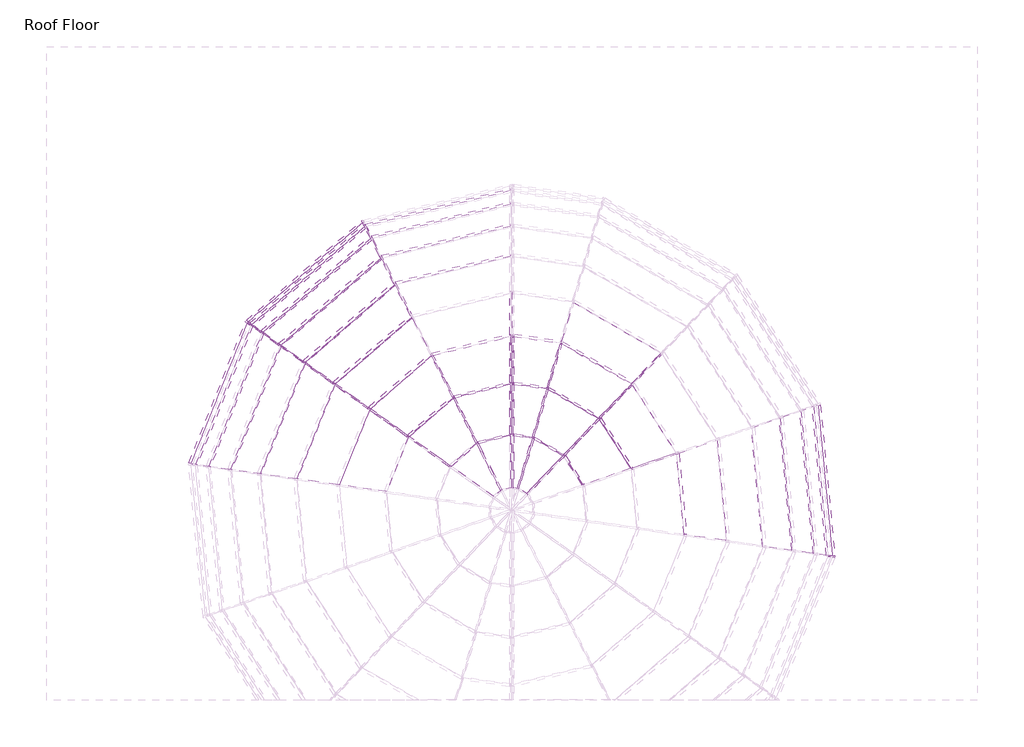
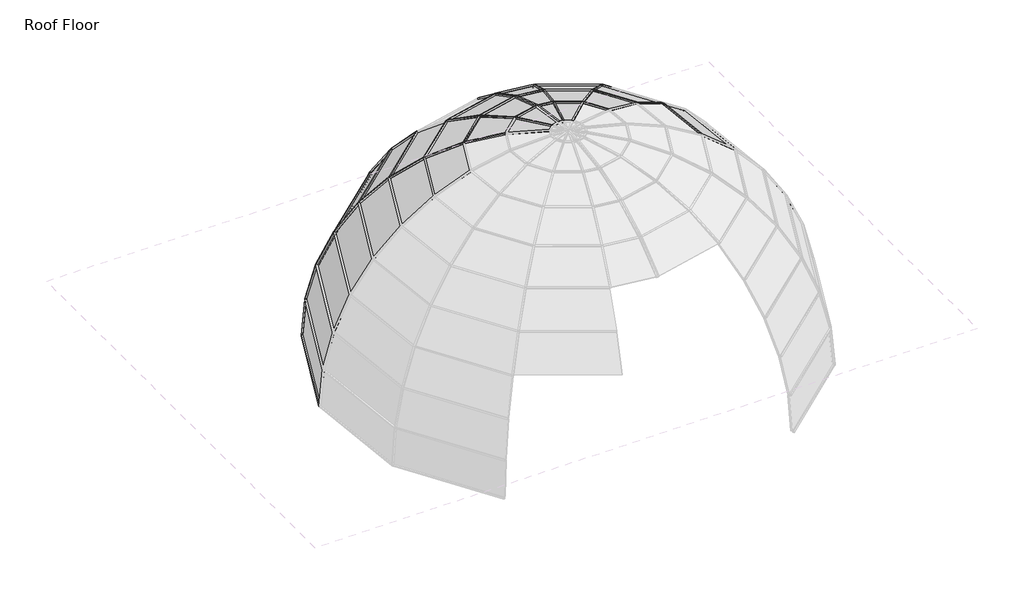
# One storey, part 4 of 5: 57 members, 33 plates.
"""IFC4 building model written with IfcOpenShell, lengths in millimetres."""

from ifc_helpers import new_model, si_unit, origin, place, context, project, spatial, transform, mapped, element, save
from components import member_e5884c93, member_68b33a8a, member_1644e863, member_ecfbb555, member_824fc51d, member_3542fcca, member_54749c12, member_24c90e2e, member_355504b0, member_dee8aa16, member_df6d12cb, member_6952dcc5, member_4046197d, member_16c772f1, member_ac46e98e, member_b6a9e346, member_16816f3b, member_d3833f24, member_95e271e4, member_7f7bd10d, member_27f65fe7, member_b6c57be0, member_ac816b31, member_27e61d6b, member_8ccf5568, member_a4aff84e, member_5ef621be, member_85a1b8f2, system_panel_glazed_e103372f, system_panel_glazed_c16507b5, system_panel_glazed_afa622ac, system_panel_glazed_079f8796, system_panel_glazed_c9cd471f, system_panel_glazed_44273b71, system_panel_glazed_99547904, system_panel_glazed_224b1453, system_panel_glazed_86a28251, system_panel_glazed_afbe5211, system_panel_glazed_17e44092, system_panel_glazed_03693a4c, system_panel_glazed_4e9ddf93, system_panel_glazed_1d538f7b, system_panel_glazed_1c764c03

model = new_model("IFC4")

# Units and contexts
model_context = context("Model", 3, world=origin())
ifc_project = project(units=[si_unit("LENGTHUNIT", "METRE", prefix="MILLI")], contexts=[model_context])

# Site, building, storey
site = spatial("IfcSite", under=ifc_project)
building = spatial("IfcBuilding", under=site)
storey = spatial("IfcBuildingStorey", under=building, Name="Roof Floor", Elevation=15240.0)

# Members
placement = place(None, origin())
member_shape = member_e5884c93(model_context)
element("IfcMember", 1, ObjectType="Rectangular Mullion : 1\" Square", at=placement, inside=storey, context=model_context, shape_type="MappedRepresentation", body=[
    mapped(member_shape, transform((-5386.0704997, 1405.930168, 21117.9670279), x_axis=(0.4123904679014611, -0.47609224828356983, 0.7767047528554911), y_axis=(-0.5085307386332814, 0.5870832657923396, 0.6298648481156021), z_axis=(-0.75586413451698, -0.654728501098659, 0.0))),
])
member_2_shape = member_68b33a8a(model_context)
element("IfcMember", 2, ObjectType="Rectangular Mullion : 1\" Square", at=placement, inside=storey, context=model_context, shape_type="MappedRepresentation", body=[
    mapped(member_2_shape, transform((-4103.8308858, 2508.907042, 21117.9670279), x_axis=(0.14846056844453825, -0.6121186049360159, 0.7767047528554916), y_axis=(-0.18307106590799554, 0.7548213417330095, 0.6298648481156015), z_axis=(-0.9718253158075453, -0.23570226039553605, 0.0))),
])
member_3_shape = member_1644e863(model_context)
element("IfcMember", 3, ObjectType="Rectangular Mullion : 1\" Square", at=placement, inside=storey, context=model_context, shape_type="MappedRepresentation", body=[
    mapped(member_3_shape, transform((-5728.2554226, 1649.7192684, 20482.2624164), x_axis=(0.32116850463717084, -0.37077926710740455, 0.8714204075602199), y_axis=(-0.5705437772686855, 0.6586754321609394, 0.4905369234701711), z_axis=(-0.7558641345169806, -0.6547285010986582, 0.0))),
])
member_4_shape = member_ecfbb555(model_context)
element("IfcMember", 4, ObjectType="Rectangular Mullion : 1\" Square", at=placement, inside=storey, context=model_context, shape_type="MappedRepresentation", body=[
    mapped(member_4_shape, transform((-5979.6973099, 1828.8586383, 19785.6060711), x_axis=(0.2199875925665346, -0.25396898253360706, 0.9418626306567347), y_axis=(-0.6166643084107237, 0.711920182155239, 0.33599819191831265), z_axis=(-0.7558641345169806, -0.6547285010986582, 0.0))),
])
member_5_shape = member_824fc51d(model_context)
element("IfcMember", 5, ObjectType="Rectangular Mullion : 1\" Square", at=placement, inside=storey, context=model_context, shape_type="MappedRepresentation", body=[
    mapped(member_5_shape, transform((-4437.7459666, 3156.7974646, 19785.6060711), x_axis=(0.0791955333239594, -0.3265315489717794, 0.9418626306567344), y_axis=(-0.22199915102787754, 0.9153259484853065, 0.3359981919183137), z_axis=(-0.9718253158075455, -0.23570226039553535, 0.0))),
])
member_6_shape = member_3542fcca(model_context)
element("IfcMember", 6, ObjectType="Rectangular Mullion : 1\" Square", at=placement, inside=storey, context=model_context, shape_type="MappedRepresentation", body=[
    mapped(member_6_shape, transform((-6133.4116648, 1938.3721843, 19047.3495572), x_axis=(0.11180378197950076, -0.12907406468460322, 0.9853120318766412), y_axis=(-0.6451118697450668, 0.7447620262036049, 0.1707635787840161), z_axis=(-0.7558641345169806, -0.6547285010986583, 0.0))),
])
member_7_shape = member_54749c12(model_context)
element("IfcMember", 7, ObjectType="Rectangular Mullion : 1\" Square", at=placement, inside=storey, context=model_context, shape_type="MappedRepresentation", body=[
    mapped(member_7_shape, transform((-4296.309905, 2882.3711957, 20482.2624164), x_axis=(0.11562066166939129, -0.47671620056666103, 0.8714204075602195), y_axis=(-0.20539575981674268, 0.8468684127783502, 0.4905369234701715), z_axis=(-0.9718253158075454, -0.23570226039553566, 0.0))),
])
member_8_shape = member_24c90e2e(model_context)
element("IfcMember", 8, ObjectType="Rectangular Mullion : 1\" Square", at=placement, inside=storey, context=model_context, shape_type="MappedRepresentation", body=[
    mapped(member_8_shape, transform((-4524.2102912, 3324.5628967, 19047.3495572), x_axis=(0.04024936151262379, -0.16595236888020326, 0.9853120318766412), y_axis=(-0.23224027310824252, 0.957551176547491, 0.17076357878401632), z_axis=(-0.9718253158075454, -0.23570226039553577, 0.0))),
])
member_9_shape = member_355504b0(model_context)
element("IfcMember", 9, ObjectType="Rectangular Mullion : 1\" Square", at=placement, inside=storey, context=model_context, shape_type="MappedRepresentation", body=[
    mapped(member_9_shape, transform((-2445.9654175, 379.0161469, 22733.3596998), x_axis=(-0.13878677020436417, -0.9628912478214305, 0.2314706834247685), y_axis=(0.03302188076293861, 0.22910310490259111, 0.9728418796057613), z_axis=(-0.9897715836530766, 0.1426611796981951, 0.0))),
])
member_10_shape = member_dee8aa16(model_context)
element("IfcMember", 10, ObjectType="Rectangular Mullion : 1\" Square", at=placement, inside=storey, context=model_context, shape_type="MappedRepresentation", body=[
    mapped(member_10_shape, transform((-1726.3579262, 76.2970849, 22733.3596998), x_axis=(-0.8194718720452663, -0.5260350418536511, 0.22749282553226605), y_axis=(0.19144367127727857, 0.12289144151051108, 0.9737797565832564), z_axis=(-0.5401991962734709, 0.8415371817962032, 0.0))),
])
element("IfcMember", 11, ObjectType="Rectangular Mullion : 1\" Square", at=placement, inside=storey, context=model_context, shape_type="MappedRepresentation", body=[
    mapped(member_10_shape, transform((-2158.3270023, 332.7848877, 22733.3596998), x_axis=(-0.4874307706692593, -0.843005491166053, 0.2274928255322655), y_axis=(0.11387277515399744, 0.19694155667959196, 0.9737797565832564), z_axis=(-0.8657044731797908, 0.5005554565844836, 0.0))),
])
member_11_shape = member_df6d12cb(model_context)
element("IfcMember", 12, ObjectType="Rectangular Mullion : 1\" Square", at=placement, inside=storey, context=model_context, shape_type="MappedRepresentation", body=[
    mapped(member_11_shape, transform((-2948.3253368, 266.8969575, 22733.3596998), x_axis=(0.2295220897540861, -0.9463438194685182, 0.22749282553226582), y_axis=(-0.053620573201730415, 0.22108328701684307, 0.9737797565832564), z_axis=(-0.9718253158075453, -0.23570226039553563, 0.0))),
])
member_12_shape = member_6952dcc5(model_context)
element("IfcMember", 13, ObjectType="Rectangular Mullion : 1\" Square", at=placement, inside=storey, context=model_context, shape_type="MappedRepresentation", body=[
    mapped(member_12_shape, transform((-6199.4516694, 1955.1139154, 18288.0), x_axis=(-0.07519001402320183, 0.030126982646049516, -0.9967140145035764), y_axis=(-0.9252092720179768, 0.3707109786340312, 0.0810010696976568), z_axis=(0.37193314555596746, 0.9282595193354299, 0.0))),
])
element("IfcMember", 14, ObjectType="Rectangular Mullion : 1\" Square", at=placement, inside=storey, context=model_context, shape_type="MappedRepresentation", body=[
    mapped(member_12_shape, transform((-4575.242748, 3369.6988705, 18288.0), x_axis=(-0.053033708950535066, 0.06122580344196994, -0.9967140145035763), y_axis=(-0.6525770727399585, 0.7533803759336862, 0.0810010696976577), z_axis=(0.7558641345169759, 0.6547285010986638, 0.0))),
])
element("IfcMember", 15, ObjectType="Rectangular Mullion : 1\" Square", at=placement, inside=storey, context=model_context, shape_type="MappedRepresentation", body=[
    mapped(member_12_shape, transform((2052.9280142, -1325.590006, 18288.0), x_axis=(0.08063742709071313, 0.0076667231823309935, -0.9967140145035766), y_axis=(0.9922394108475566, 0.09433863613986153, 0.08100106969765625), z_axis=(0.09464965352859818, -0.995510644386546, 0.0))),
])
member_13_shape = member_4046197d(model_context)
element("IfcMember", 16, ObjectType="Rectangular Mullion : 1\" Square", at=placement, inside=storey, context=model_context, shape_type="MappedRepresentation", body=[
    mapped(member_13_shape, transform((-2445.9654175, 1102.490377, 22494.1337848), x_axis=(-0.13145065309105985, -0.9119938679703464, 0.3885716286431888), y_axis=(0.05543408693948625, 0.38459715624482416, 0.9214185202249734), z_axis=(-0.9897715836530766, 0.142661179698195, 0.0))),
])
member_14_shape = member_16c772f1(model_context)
element("IfcMember", 17, ObjectType="Rectangular Mullion : 1\" Square", at=placement, inside=storey, context=model_context, shape_type="MappedRepresentation", body=[
    mapped(member_14_shape, transform((-3921.0652112, 362.1894964, 22494.1337848), x_axis=(0.6049222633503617, -0.6983643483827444, 0.38256540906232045), y_axis=(-0.25047647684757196, 0.2891674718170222, 0.9239284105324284), z_axis=(-0.7558641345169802, -0.654728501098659, 0.0))),
])
element("IfcMember", 18, ObjectType="Rectangular Mullion : 1\" Square", at=placement, inside=storey, context=model_context, shape_type="MappedRepresentation", body=[
    mapped(member_14_shape, transform((-1226.7982715, 599.6087636, 22494.1337848), x_axis=(-0.7775201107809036, -0.4991053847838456, 0.3825654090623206), y_axis=(0.32194301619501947, 0.20666152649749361, 0.9239284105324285), z_axis=(-0.5401991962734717, 0.8415371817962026, 0.0))),
])
element("IfcMember", 19, ObjectType="Rectangular Mullion : 1\" Square", at=placement, inside=storey, context=model_context, shape_type="MappedRepresentation", body=[
    mapped(member_14_shape, transform((-1954.0150122, 1026.8105158, 22494.1337848), x_axis=(-0.46247740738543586, -0.7998489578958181, 0.38256540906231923), y_axis=(0.19149520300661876, 0.33118858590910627, 0.9239284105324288), z_axis=(-0.865704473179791, 0.5005554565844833, 0.0))),
])
member_15_shape = member_ac46e98e(model_context)
element("IfcMember", 20, ObjectType="Rectangular Mullion : 1\" Square", at=placement, inside=storey, context=model_context, shape_type="MappedRepresentation", body=[
    mapped(member_15_shape, transform((-3279.7654111, 909.9851621, 22494.1337848), x_axis=(0.21777201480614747, -0.8978970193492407, 0.3825654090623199), y_axis=(-0.09017153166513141, 0.3717867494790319, 0.9239284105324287), z_axis=(-0.9718253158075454, -0.23570226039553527, 0.0))),
])
member_16_shape = member_b6a9e346(model_context)
element("IfcMember", 21, ObjectType="Rectangular Mullion : 1\" Square", at=placement, inside=storey, context=model_context, shape_type="MappedRepresentation", body=[
    mapped(member_16_shape, transform((-2445.9654175, 1776.1840502, 22138.0708204), x_axis=(-0.12049183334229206, -0.8359624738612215, 0.5353956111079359), y_axis=(0.07638016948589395, 0.5299193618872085, 0.8446014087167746), z_axis=(-0.9897715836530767, 0.14266117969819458, 0.0))),
])
member_17_shape = member_16816f3b(model_context)
element("IfcMember", 22, ObjectType="Rectangular Mullion : 1\" Square", at=placement, inside=storey, context=model_context, shape_type="MappedRepresentation", body=[
    mapped(member_17_shape, transform((-4469.7487023, 753.098171, 22138.0708204), x_axis=(0.5558548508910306, -0.6417175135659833, 0.528416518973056), y_axis=(-0.3459693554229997, 0.39941109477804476, 0.8489852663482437), z_axis=(-0.7558641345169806, -0.6547285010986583, 0.0))),
])
element("IfcMember", 23, ObjectType="Rectangular Mullion : 1\" Square", at=placement, inside=storey, context=model_context, shape_type="MappedRepresentation", body=[
    mapped(member_17_shape, transform((-139.3504694, 106.7658383, 22138.0708204), x_axis=(-0.8451738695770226, -0.08035616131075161, 0.5284165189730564), y_axis=(0.5260442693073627, 0.0500144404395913, 0.8489852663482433), z_axis=(-0.09464965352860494, 0.9955106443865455, 0.0))),
])
element("IfcMember", 24, ObjectType="Rectangular Mullion : 1\" Square", at=placement, inside=storey, context=model_context, shape_type="MappedRepresentation", body=[
    mapped(member_17_shape, transform((-1763.7612487, 1673.0818758, 22138.0708204), x_axis=(-0.4249642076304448, -0.7349703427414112, 0.5284165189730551), y_axis=(0.264501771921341, 0.45745254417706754, 0.8489852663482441), z_axis=(-0.8657044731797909, 0.5005554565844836, 0.0))),
])
member_18_shape = member_d3833f24(model_context)
element("IfcMember", 25, ObjectType="Rectangular Mullion : 1\" Square", at=placement, inside=storey, context=model_context, shape_type="MappedRepresentation", body=[
    mapped(member_18_shape, transform((-3588.3998748, 1508.8239827, 22138.0708204), x_axis=(0.2001077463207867, -0.8250653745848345, 0.5284165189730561), y_axis=(-0.1245489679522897, 0.5135285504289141, 0.8489852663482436), z_axis=(-0.9718253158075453, -0.23570226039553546, 0.0))),
])
member_19_shape = member_95e271e4(model_context)
element("IfcMember", 26, ObjectType="Rectangular Mullion : 1\" Square", at=placement, inside=storey, context=model_context, shape_type="MappedRepresentation", body=[
    mapped(member_19_shape, transform((-4962.6476779, 1104.2632567, 21675.0614442), x_axis=(0.49123616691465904, -0.5671172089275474, 0.6611089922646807), y_axis=(-0.4328468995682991, 0.4997085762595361, 0.7502898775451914), z_axis=(-0.7558641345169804, -0.6547285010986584, 0.0))),
])
member_20_shape = member_7f7bd10d(model_context)
element("IfcMember", 27, ObjectType="Rectangular Mullion : 1\" Square", at=placement, inside=storey, context=model_context, shape_type="MappedRepresentation", body=[
    mapped(member_20_shape, transform((-3600.7420563, 1505.830564, 22138.0708204), x_axis=(-0.8888888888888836, -0.4581228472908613, 0.0), y_axis=(-0.21406900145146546, 0.41535487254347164, 0.8841124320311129), z_axis=(-0.40503210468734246, 0.7858777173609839, -0.4672742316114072))),
])
element("IfcMember", 28, ObjectType="Rectangular Mullion : 1\" Square", at=placement, inside=storey, context=model_context, shape_type="MappedRepresentation", body=[
    mapped(member_20_shape, transform((-3292.1075926, 906.9917434, 22494.1337848), x_axis=(-0.8888888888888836, -0.4581228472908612, 0.0), y_axis=(-0.14382527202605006, 0.2790620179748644, 0.9494412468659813), z_axis=(-0.43496072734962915, 0.8439477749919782, -0.31394477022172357))),
])
element("IfcMember", 29, ObjectType="Rectangular Mullion : 1\" Square", at=placement, inside=storey, context=model_context, shape_type="MappedRepresentation", body=[
    mapped(member_20_shape, transform((-6143.0111393, 1930.0571323, 19047.3495572), x_axis=(-0.5802469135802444, -0.8144406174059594, 0.0), y_axis=(-0.789063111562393, 0.5621667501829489, 0.247685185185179), z_axis=(-0.20172487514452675, 0.14371856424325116, -0.9688405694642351))),
])
element("IfcMember", 30, ObjectType="Rectangular Mullion : 1\" Square", at=placement, inside=storey, context=model_context, shape_type="MappedRepresentation", body=[
    mapped(member_20_shape, transform((-5989.2967844, 1820.5435863, 19785.6060711), x_axis=(-0.5802469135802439, -0.8144406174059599, 0.0), y_axis=(-0.7446000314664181, 0.5304890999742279, 0.4051568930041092), z_axis=(-0.32997623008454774, 0.2350910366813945, -0.9142471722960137))),
])
element("IfcMember", 31, ObjectType="Rectangular Mullion : 1\" Square", at=placement, inside=storey, context=model_context, shape_type="MappedRepresentation", body=[
    mapped(member_20_shape, transform((-5737.8548971, 1641.4042164, 20482.2624164), x_axis=(-0.580246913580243, -0.8144406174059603, 0.0), y_axis=(-0.6794536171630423, 0.48407564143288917, 0.5513742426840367), z_axis=(-0.4490615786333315, 0.3199332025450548, -0.8342580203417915))),
])
element("IfcMember", 32, ObjectType="Rectangular Mullion : 1\" Square", at=placement, inside=storey, context=model_context, shape_type="MappedRepresentation", body=[
    mapped(member_20_shape, transform((-5395.6699742, 1397.6151161, 21117.9670279), x_axis=(-0.5802469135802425, -0.8144406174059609, 0.0), y_axis=(-0.5954334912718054, 0.42421563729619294, 0.6822756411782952), z_axis=(-0.5556729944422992, 0.3958883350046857, -0.7310950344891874))),
])
element("IfcMember", 33, ObjectType="Rectangular Mullion : 1\" Square", at=placement, inside=storey, context=model_context, shape_type="MappedRepresentation", body=[
    mapped(member_20_shape, transform((-4972.2471524, 1095.9482048, 21675.0614442), x_axis=(-0.5802469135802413, -0.8144406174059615, 0.0), y_axis=(-0.49487354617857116, 0.35257186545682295, 0.7942249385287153), z_axis=(-0.6468490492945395, 0.4608465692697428, -0.6076238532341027))),
])
element("IfcMember", 34, ObjectType="Rectangular Mullion : 1\" Square", at=placement, inside=storey, context=model_context, shape_type="MappedRepresentation", body=[
    mapped(member_20_shape, transform((-4479.3481768, 744.783119, 22138.0708204), x_axis=(-0.5802469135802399, -0.8144406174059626, 0.0), y_axis=(-0.3805671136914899, 0.27113443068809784, 0.8841124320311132), z_axis=(-0.7200570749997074, 0.5130035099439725, -0.4672742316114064))),
])
element("IfcMember", 35, ObjectType="Rectangular Mullion : 1\" Square", at=placement, inside=storey, context=model_context, shape_type="MappedRepresentation", body=[
    mapped(member_20_shape, transform((-4536.5524727, 3321.569478, 19047.3495572), x_axis=(-0.888888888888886, -0.45812284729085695, 0.0), y_axis=(-0.4438480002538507, 0.8611916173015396, 0.2476851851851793), z_axis=(-0.11347024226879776, 0.2201646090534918, -0.9688405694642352))),
])
element("IfcMember", 36, ObjectType="Rectangular Mullion : 1\" Square", at=placement, inside=storey, context=model_context, shape_type="MappedRepresentation", body=[
    mapped(member_20_shape, transform((-4450.0881481, 3153.8040459, 19785.6060711), x_axis=(-0.8888888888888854, -0.4581228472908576, 0.0), y_axis=(-0.4188375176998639, 0.8126641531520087, 0.40515689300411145), z_axis=(-0.18561162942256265, 0.36013946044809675, -0.9142471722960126))),
])
element("IfcMember", 37, ObjectType="Rectangular Mullion : 1\" Square", at=placement, inside=storey, context=model_context, shape_type="MappedRepresentation", body=[
    mapped(member_20_shape, transform((-4308.6520865, 2879.377777, 20482.2624164), x_axis=(-0.8888888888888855, -0.4581228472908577, 0.0), y_axis=(-0.3821926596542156, 0.7415626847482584, 0.551374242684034), z_axis=(-0.25259713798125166, 0.49011043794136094, -0.8342580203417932))),
])
element("IfcMember", 38, ObjectType="Rectangular Mullion : 1\" Square", at=placement, inside=storey, context=model_context, shape_type="MappedRepresentation", body=[
    mapped(member_20_shape, transform((-4116.1730673, 2505.9136233, 21117.9670279), x_axis=(-0.888888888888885, -0.45812284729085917, 0.0), y_axis=(-0.3349313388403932, 0.6498622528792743, 0.6822756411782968), z_axis=(-0.31256605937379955, 0.6064672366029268, -0.7310950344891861))),
])
element("IfcMember", 39, ObjectType="Rectangular Mullion : 1\" Square", at=placement, inside=storey, context=model_context, shape_type="MappedRepresentation", body=[
    mapped(member_20_shape, transform((-3930.6646857, 353.8744444, 22494.1337848), x_axis=(-0.5802469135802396, -0.8144406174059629, 0.0), y_axis=(-0.25568937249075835, 0.182165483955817, 0.9494412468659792), z_axis=(-0.7732635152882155, 0.5509103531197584, -0.3139447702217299))),
])
element("IfcMember", 40, ObjectType="Rectangular Mullion : 1\" Square", at=placement, inside=storey, context=model_context, shape_type="MappedRepresentation", body=[
    mapped(member_20_shape, transform((-140.55252, 119.4088235, 22138.0708204), x_axis=(-0.3266270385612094, 0.9451533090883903, 0.0), y_axis=(0.44164578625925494, 0.15262439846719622, 0.8841124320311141), z_axis=(0.8356217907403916, 0.2887750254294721, -0.4672742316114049))),
])
element("IfcMember", 41, ObjectType="Rectangular Mullion : 1\" Square", at=placement, inside=storey, context=model_context, shape_type="MappedRepresentation", body=[
    mapped(member_20_shape, transform((-350.5818969, 1535.3598953, 21675.0614442), x_axis=(-0.7233314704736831, 0.6905009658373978, 0.0), y_axis=(0.41956485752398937, 0.4395134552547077, 0.7942249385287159), z_axis=(0.5484130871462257, 0.5744878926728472, -0.607623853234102))),
])
element("IfcMember", 42, ObjectType="Rectangular Mullion : 1\" Square", at=placement, inside=storey, context=model_context, shape_type="MappedRepresentation", body=[
    mapped(member_20_shape, transform((-768.4726693, 1097.6001211, 22138.0708204), x_axis=(-0.7233314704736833, 0.6905009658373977, 0.0), y_axis=(0.3226533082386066, 0.33799415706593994, 0.884112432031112), z_axis=(0.6104804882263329, 0.639506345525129, -0.46727423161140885))),
])
element("IfcMember", 43, ObjectType="Rectangular Mullion : 1\" Square", at=placement, inside=storey, context=model_context, shape_type="MappedRepresentation", body=[
    mapped(member_20_shape, transform((-1233.6588013, 610.2962858, 22494.1337848), x_axis=(-0.7233314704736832, 0.6905009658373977, 0.0), y_axis=(0.21677916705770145, 0.22708613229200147, 0.9494412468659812), z_axis=(0.6555900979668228, 0.6867607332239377, -0.3139447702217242))),
])
element("IfcMember", 44, ObjectType="Rectangular Mullion : 1\" Square", at=placement, inside=storey, context=model_context, shape_type="MappedRepresentation", body=[
    mapped(member_20_shape, transform((-1774.7556955, 1679.4389301, 22138.0708204), x_axis=(-0.9592955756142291, 0.28240396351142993, 0.0), y_axis=(0.13196009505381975, 0.4482541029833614, 0.8841124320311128), z_axis=(0.24967685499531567, 0.8481251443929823, -0.46727423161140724))),
])
element("IfcMember", 45, ObjectType="Rectangular Mullion : 1\" Square", at=placement, inside=storey, context=model_context, shape_type="MappedRepresentation", body=[
    mapped(member_20_shape, transform((-1965.009459, 1033.1675701, 22494.1337848), x_axis=(-0.959295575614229, 0.2824039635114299, 0.0), y_axis=(0.08865924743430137, 0.30116582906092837, 0.9494412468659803), z_axis=(0.2681259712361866, 0.9107947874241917, -0.313944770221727))),
])
member_21_shape = member_27f65fe7(model_context)
element("IfcMember", 46, ObjectType="Rectangular Mullion : 1\" Square", at=placement, inside=storey, context=model_context, shape_type="MappedRepresentation", body=[
    mapped(member_21_shape, transform((-2960.6675183, 263.9035388, 22733.3596998), x_axis=(-0.8888888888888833, -0.45812284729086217, 0.0), y_axis=(-0.06958639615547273, 0.1350174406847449, 0.9883966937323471), z_axis=(-0.45280710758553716, 0.8785748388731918, -0.15189462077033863))),
])
element("IfcMember", 47, ObjectType="Rectangular Mullion : 1\" Square", at=placement, inside=storey, context=model_context, shape_type="MappedRepresentation", body=[
    mapped(member_21_shape, transform((-1733.2184559, 86.9846071, 22733.3596998), x_axis=(-0.7233314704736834, 0.6905009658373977, 0.0), y_axis=(0.10488338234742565, 0.1098701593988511, 0.9883966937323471), z_axis=(0.6824888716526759, 0.7149384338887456, -0.1518946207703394))),
])
element("IfcMember", 48, ObjectType="Rectangular Mullion : 1\" Square", at=placement, inside=storey, context=model_context, shape_type="MappedRepresentation", body=[
    mapped(member_21_shape, transform((-2169.3214491, 339.141942, 22733.3596998), x_axis=(-0.9592955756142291, 0.2824039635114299, 0.0), y_axis=(0.042895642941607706, 0.14571183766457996, 0.9883966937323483), z_axis=(0.27912714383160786, 0.9481645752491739, -0.15189462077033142))),
])
member_22_shape = member_b6c57be0(model_context)
element("IfcMember", 49, ObjectType="Rectangular Mullion : 1\" Square", at=placement, inside=storey, context=model_context, shape_type="MappedRepresentation", body=[
    mapped(member_22_shape, transform((-2471.1056157, 1779.8076442, 22138.0708204), x_axis=(0.9893147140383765, 0.08858896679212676, 0.11579460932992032), y_axis=(-0.1457957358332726, 0.6011312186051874, 0.7857384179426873), z_axis=(0.0, -0.7942249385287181, 0.6076238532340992))),
])
member_23_shape = member_ac816b31(model_context)
element("IfcMember", 50, ObjectType="Rectangular Mullion : 1\" Square", at=placement, inside=storey, context=model_context, shape_type="MappedRepresentation", body=[
    mapped(member_23_shape, transform((-2471.1056157, 1106.113971, 22494.1337848), x_axis=(0.9936392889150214, 0.05261965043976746, 0.09955971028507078), y_axis=(-0.11260978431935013, 0.46430203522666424, 0.8784888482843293), z_axis=(0.0, -0.8841124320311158, 0.46727423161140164))),
])
member_24_shape = member_27e61d6b(model_context)
element("IfcMember", 51, ObjectType="Rectangular Mullion : 1\" Square", at=placement, inside=storey, context=model_context, shape_type="MappedRepresentation", body=[
    mapped(member_24_shape, transform((-2471.1056157, 382.6397409, 22733.3596998), x_axis=(0.9971136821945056, 0.023835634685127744, 0.0720844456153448), y_axis=(-0.07592301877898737, 0.313038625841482, 0.9467008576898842), z_axis=(0.0, -0.9494412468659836, 0.31394477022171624))),
])
member_25_shape = member_8ccf5568(model_context)
element("IfcMember", 52, ObjectType="Rectangular Mullion : 1\" Square", at=placement, inside=storey, context=model_context, shape_type="MappedRepresentation", body=[
    mapped(member_25_shape, transform((-4565.6432735, 3378.0139224, 18288.0), x_axis=(-0.8888888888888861, -0.4581228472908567, 0.0), y_axis=(-0.4565293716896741, 0.8857970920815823, 0.08333333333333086), z_axis=(-0.03817690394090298, 0.07407407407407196, -0.9965217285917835))),
])
element("IfcMember", 53, ObjectType="Rectangular Mullion : 1\" Square", at=placement, inside=storey, context=model_context, shape_type="MappedRepresentation", body=[
    mapped(member_25_shape, transform((-6194.7281185, 1966.9028113, 18288.0), x_axis=(-0.5802469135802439, -0.8144406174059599, 0.0), y_axis=(-0.8116077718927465, 0.5782286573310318, 0.08333333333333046), z_axis=(-0.06787005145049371, 0.04835390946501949, -0.9965217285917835))),
])
element("IfcMember", 54, ObjectType="Rectangular Mullion : 1\" Square", at=placement, inside=storey, context=model_context, shape_type="MappedRepresentation", body=[
    mapped(member_25_shape, transform((2054.1300648, -1338.2329912, 18288.0), x_axis=(0.1426611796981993, 0.9897715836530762, 0.0), y_axis=(0.9863288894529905, -0.1421649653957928, 0.08333333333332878), z_axis=(0.0824809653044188, -0.011888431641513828, -0.9965217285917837))),
])
member_26_shape = member_a4aff84e(model_context)
element("IfcMember", 55, ObjectType="Rectangular Mullion : 1\" Square", at=placement, inside=storey, context=model_context, shape_type="MappedRepresentation", body=[
    mapped(member_26_shape, transform((-2471.1056157, 1106.113971, 22494.1337848), x_axis=(-0.9989777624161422, 0.014191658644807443, 0.0429188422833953), y_axis=(0.04520431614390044, 0.31362384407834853, 0.9484706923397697), z_axis=(0.0, 0.9494412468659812, -0.3139447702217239))),
])
member_27_shape = member_5ef621be(model_context)
element("IfcMember", 56, ObjectType="Rectangular Mullion : 1\" Square", at=placement, inside=storey, context=model_context, shape_type="MappedRepresentation", body=[
    mapped(member_27_shape, transform((-2471.1056157, 382.6397409, 22733.3596998), x_axis=(-0.9997604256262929, 0.003324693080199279, 0.021634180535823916), y_axis=(0.021888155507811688, 0.1518582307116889, 0.9881598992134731), z_axis=(0.0, 0.9883966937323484, -0.15189462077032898))),
])
member_28_shape = member_85a1b8f2(model_context)
element("IfcMember", 57, ObjectType="Rectangular Mullion : 1\" Square", at=placement, inside=storey, context=model_context, shape_type="MappedRepresentation", body=[
    mapped(member_28_shape, transform((-2471.1056157, 1779.8076442, 22138.0708204), x_axis=(-0.9977396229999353, 0.03140014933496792, 0.05941107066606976), y_axis=(0.06719854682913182, 0.46621801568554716, 0.8821140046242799), z_axis=(0.0, 0.8841124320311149, -0.4672742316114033))),
])

# Plates
system_panel_glazed_shape = system_panel_glazed_e103372f(model_context)
element("IfcPlate", 58, ObjectType="System Panel : Glazed", at=placement, inside=storey, context=model_context, shape_type="MappedRepresentation", body=[
    mapped(system_panel_glazed_shape, transform((1950.0844985, -265.634859, 18313.316536), x_axis=(-0.09464965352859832, 0.9955106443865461, 0.0), y_axis=(-0.9922394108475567, -0.09433863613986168, -0.08100106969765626), z_axis=(-0.08063742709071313, -0.007666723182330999, 0.9967140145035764))),
])
element("IfcPlate", 59, ObjectType="System Panel : Glazed", at=placement, inside=storey, context=model_context, shape_type="MappedRepresentation", body=[
    mapped(system_panel_glazed_shape, transform((-5378.8386398, 2670.9032315, 18313.316536), x_axis=(-0.7558641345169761, -0.6547285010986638, 0.0), y_axis=(0.6525770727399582, -0.7533803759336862, -0.08100106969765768), z_axis=(0.05303370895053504, -0.061225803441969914, 0.9967140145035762))),
])
element("IfcPlate", 60, ObjectType="System Panel : Glazed", at=placement, inside=storey, context=model_context, shape_type="MappedRepresentation", body=[
    mapped(system_panel_glazed_shape, transform((-6593.624881, 965.8165983, 18313.316536), x_axis=(-0.3719331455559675, -0.9282595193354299, 0.0), y_axis=(0.9252092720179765, -0.37071097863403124, -0.0810010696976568), z_axis=(0.07519001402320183, -0.03012698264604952, 0.9967140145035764))),
])
system_panel_glazed_2_shape = system_panel_glazed_c16507b5(model_context)
element("IfcPlate", 61, ObjectType="System Panel : Glazed", at=placement, inside=storey, context=model_context, shape_type="MappedRepresentation", body=[
    mapped(system_panel_glazed_2_shape, transform((1887.6503728, -271.5708762, 19059.674854), x_axis=(-0.09464965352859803, 0.9955106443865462, 0.0), y_axis=(-0.9661389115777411, -0.09185709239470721, -0.24111797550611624), z_axis=(-0.24003551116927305, -0.022821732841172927, 0.9704958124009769))),
])
element("IfcPlate", 62, ObjectType="System Panel : Glazed", at=placement, inside=storey, context=model_context, shape_type="MappedRepresentation", body=[
    mapped(system_panel_glazed_2_shape, transform((-5337.7768975, 2623.4986993, 19059.674854), x_axis=(-0.755864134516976, -0.6547285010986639, 0.0), y_axis=(0.6354112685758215, -0.7335629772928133, -0.241117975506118), z_axis=(0.15786681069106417, -0.18225242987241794, 0.9704958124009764))),
])
element("IfcPlate", 63, ObjectType="System Panel : Glazed", at=placement, inside=storey, context=model_context, shape_type="MappedRepresentation", body=[
    mapped(system_panel_glazed_2_shape, transform((-6535.4084552, 942.4905587, 19059.674854), x_axis=(-0.3719331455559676, -0.9282595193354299, 0.0), y_axis=(0.9008719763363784, -0.36095956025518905, -0.24111797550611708), z_axis=(0.22382005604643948, -0.0896797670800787, 0.9704958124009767))),
])
system_panel_glazed_3_shape = system_panel_glazed_afa622ac(model_context)
element("IfcPlate", 64, ObjectType="System Panel : Glazed", at=placement, inside=storey, context=model_context, shape_type="MappedRepresentation", body=[
    mapped(system_panel_glazed_3_shape, transform((1703.1027978, -289.1170111, 19797.2703184), x_axis=(-0.09464965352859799, 0.9955106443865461, 0.0), y_axis=(-0.9143214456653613, -0.08693046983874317, -0.3955494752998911), z_axis=(-0.39377371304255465, -0.03743862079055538, 0.9184446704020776))),
])
element("IfcPlate", 65, ObjectType="System Panel : Glazed", at=placement, inside=storey, context=model_context, shape_type="MappedRepresentation", body=[
    mapped(system_panel_glazed_3_shape, transform((-5216.4034518, 2483.376749, 19797.2703184), x_axis=(-0.7558641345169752, -0.6547285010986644, 0.0), y_axis=(0.6013319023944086, -0.6942193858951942, -0.39554947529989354), z_axis=(0.2589775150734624, -0.2989816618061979, 0.9184446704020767))),
])
element("IfcPlate", 66, ObjectType="System Panel : Glazed", at=placement, inside=storey, context=model_context, shape_type="MappedRepresentation", body=[
    mapped(system_panel_glazed_3_shape, transform((-6363.3278811, 873.5416625, 19797.2703184), x_axis=(-0.371933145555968, -0.9282595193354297, 0.0), y_axis=(0.8525550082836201, -0.3416000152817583, -0.3955494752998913), z_axis=(0.36717256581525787, -0.14711796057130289, 0.9184446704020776))),
])
system_panel_glazed_4_shape = system_panel_glazed_079f8796(model_context)
element("IfcPlate", 67, ObjectType="System Panel : Glazed", at=placement, inside=storey, context=model_context, shape_type="MappedRepresentation", body=[
    mapped(system_panel_glazed_4_shape, transform((1402.5869203, -317.6890046, 20492.9481164), x_axis=(-0.09464965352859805, 0.9955106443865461, 0.0), y_axis=(-0.8376163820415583, -0.07963762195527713, -0.5404226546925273), z_axis=(-0.5379965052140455, -0.051150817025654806, 0.8413936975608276))),
])
element("IfcPlate", 68, ObjectType="System Panel : Glazed", at=placement, inside=storey, context=model_context, shape_type="MappedRepresentation", body=[
    mapped(system_panel_glazed_4_shape, transform((-5018.7598493, 2255.2032232, 20492.9481164), x_axis=(-0.7558641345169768, -0.654728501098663, 0.0), y_axis=(0.5508844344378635, -0.6359793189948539, -0.540422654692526), z_axis=(0.35383011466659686, -0.4084861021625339, 0.8413936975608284))),
])
element("IfcPlate", 69, ObjectType="System Panel : Glazed", at=placement, inside=storey, context=model_context, shape_type="MappedRepresentation", body=[
    mapped(system_panel_glazed_4_shape, transform((-6083.1131736, 761.2658006, 20492.9481164), x_axis=(-0.37193314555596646, -0.9282595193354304, 0.0), y_axis=(0.7810317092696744, -0.3129422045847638, -0.5404226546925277), z_axis=(0.5016524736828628, -0.20100109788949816, 0.8413936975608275))),
])
system_panel_glazed_5_shape = system_panel_glazed_c9cd471f(model_context)
element("IfcPlate", 70, ObjectType="System Panel : Glazed", at=placement, inside=storey, context=model_context, shape_type="MappedRepresentation", body=[
    mapped(system_panel_glazed_5_shape, transform((-4750.3354993, 1945.3154778, 21127.3743739), x_axis=(-0.755864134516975, -0.6547285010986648, 0.0), y_axis=(0.484980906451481, -0.5598957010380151, -0.6717963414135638), z_axis=(0.4398442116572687, -0.5077867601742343, 0.7407359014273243))),
])
element("IfcPlate", 71, ObjectType="System Panel : Glazed", at=placement, inside=storey, context=model_context, shape_type="MappedRepresentation", body=[
    mapped(system_panel_glazed_5_shape, transform((-5702.5470951, 608.7813544, 21127.3743739), x_axis=(-0.37193314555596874, -0.9282595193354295, 0.0), y_axis=(0.6875951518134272, -0.2755042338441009, -0.6717963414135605), z_axis=(0.6236013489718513, -0.24986332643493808, 0.7407359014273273))),
])
system_panel_glazed_6_shape = system_panel_glazed_44273b71(model_context)
element("IfcPlate", 72, ObjectType="System Panel : Glazed", at=placement, inside=storey, context=model_context, shape_type="MappedRepresentation", body=[
    mapped(system_panel_glazed_6_shape, transform((490.0308265, -404.451631, 21682.9171425), x_axis=(-0.09464965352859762, 0.9955106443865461, 0.0), y_axis=(-0.6157819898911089, -0.05854638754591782, -0.7857384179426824), z_axis=(-0.782210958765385, -0.07436986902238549, 0.6185589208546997))),
])
element("IfcPlate", 73, ObjectType="System Panel : Glazed", at=placement, inside=storey, context=model_context, shape_type="MappedRepresentation", body=[
    mapped(system_panel_glazed_6_shape, transform((-982.2084229, 1889.0432084, 21682.9171425), x_axis=(-0.8657044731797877, 0.500555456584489, 0.0), y_axis=(-0.3096230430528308, -0.5354892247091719, -0.7857384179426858), z_axis=(-0.39330565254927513, -0.6802172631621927, 0.6185589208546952))),
])
element("IfcPlate", 74, ObjectType="System Panel : Glazed", at=placement, inside=storey, context=model_context, shape_type="MappedRepresentation", body=[
    mapped(system_panel_glazed_6_shape, transform((-4418.5889855, 1562.324221, 21682.9171425), x_axis=(-0.755864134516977, -0.6547285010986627, 0.0), y_axis=(0.4049881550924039, -0.46754650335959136, -0.7857384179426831), z_axis=(0.5144453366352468, -0.5939114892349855, 0.6185589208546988))),
])
element("IfcPlate", 75, ObjectType="System Panel : Glazed", at=placement, inside=storey, context=model_context, shape_type="MappedRepresentation", body=[
    mapped(system_panel_glazed_6_shape, transform((-5232.20426, 420.3253392, 21682.9171425), x_axis=(-0.3719331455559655, -0.9282595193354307, 0.0), y_axis=(0.574183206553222, -0.23006256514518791, -0.7857384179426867), z_axis=(0.7293691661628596, -0.29224216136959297, 0.6185589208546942))),
])
system_panel_glazed_7_shape = system_panel_glazed_99547904(model_context)
element("IfcPlate", 76, ObjectType="System Panel : Glazed", at=placement, inside=storey, context=model_context, shape_type="MappedRepresentation", body=[
    mapped(system_panel_glazed_7_shape, transform((-3039.6037606, 1630.4463302, 22144.1384086), x_axis=(-0.9718253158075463, -0.23570226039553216, 0.0), y_axis=(0.11260978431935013, -0.46430203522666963, -0.8784888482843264), z_axis=(0.20706180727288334, -0.8537377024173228, 0.47776285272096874))),
])
system_panel_glazed_8_shape = system_panel_glazed_224b1453(model_context)
element("IfcPlate", 77, ObjectType="System Panel : Glazed", at=placement, inside=storey, context=model_context, shape_type="MappedRepresentation", body=[
    mapped(system_panel_glazed_8_shape, transform((-463.9014637, 602.4775734, 22144.1384086), x_axis=(-0.5401991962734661, 0.8415371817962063, 0.0), y_axis=(-0.4020552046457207, -0.25808710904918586, -0.8784888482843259), z_axis=(-0.7392810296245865, -0.4745589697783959, 0.4777628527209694))),
])
element("IfcPlate", 78, ObjectType="System Panel : Glazed", at=placement, inside=storey, context=model_context, shape_type="MappedRepresentation", body=[
    mapped(system_panel_glazed_8_shape, transform((-1277.1987837, 1378.8610267, 22144.1384086), x_axis=(-0.8657044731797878, 0.5005554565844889, 0.0), y_axis=(-0.2391468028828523, -0.413601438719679, -0.8784888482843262), z_axis=(-0.43973238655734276, -0.7605117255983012, 0.47776285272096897))),
])
element("IfcPlate", 79, ObjectType="System Panel : Glazed", at=placement, inside=storey, context=model_context, shape_type="MappedRepresentation", body=[
    mapped(system_panel_glazed_8_shape, transform((-4032.7404362, 1116.8738102, 22144.1384086), x_axis=(-0.755864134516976, -0.6547285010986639, 0.0), y_axis=(0.3128049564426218, -0.3611238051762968, -0.878488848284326), z_axis=(0.5751716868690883, -0.664018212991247, 0.47776285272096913))),
])
element("IfcPlate", 80, ObjectType="System Panel : Glazed", at=placement, inside=storey, context=model_context, shape_type="MappedRepresentation", body=[
    mapped(system_panel_glazed_8_shape, transform((-4685.1567612, 201.1354545, 22144.1384086), x_axis=(-0.37193314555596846, -0.9282595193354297, 0.0), y_axis=(0.44348791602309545, -0.1776958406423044, -0.8784888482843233), z_axis=(0.815465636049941, -0.3267391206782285, 0.47776285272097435))),
])
system_panel_glazed_9_shape = system_panel_glazed_86a28251(model_context)
element("IfcPlate", 81, ObjectType="System Panel : Glazed", at=placement, inside=storey, context=model_context, shape_type="MappedRepresentation", body=[
    mapped(system_panel_glazed_9_shape, transform((-2118.1932205, 1717.6218353, 22144.0529771), x_axis=(-0.9897715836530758, 0.14266117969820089, 0.0), y_axis=(-0.0671985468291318, -0.466218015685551, -0.8821140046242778), z_axis=(-0.12584342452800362, -0.8730913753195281, 0.47103596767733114))),
])
system_panel_glazed_10_shape = system_panel_glazed_afbe5211(model_context)
element("IfcPlate", 82, ObjectType="System Panel : Glazed", at=placement, inside=storey, context=model_context, shape_type="MappedRepresentation", body=[
    mapped(system_panel_glazed_10_shape, transform((-2885.104404, 993.3328473, 22498.2246338), x_axis=(-0.9718253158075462, -0.23570226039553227, 0.0), y_axis=(0.07592301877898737, -0.31303862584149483, -0.9467008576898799), z_axis=(0.22313953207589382, -0.9200278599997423, 0.3221140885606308))),
])
system_panel_glazed_11_shape = system_panel_glazed_17e44092(model_context)
element("IfcPlate", 83, ObjectType="System Panel : Glazed", at=placement, inside=storey, context=model_context, shape_type="MappedRepresentation", body=[
    mapped(system_panel_glazed_11_shape, transform((-1015.5954494, 248.3344005, 22498.2246338), x_axis=(-0.5401991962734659, 0.8415371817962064, 0.0), y_axis=(-0.27107098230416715, -0.17400577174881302, -0.9467008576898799), z_axis=(-0.796683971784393, -0.511407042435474, 0.3221140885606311))),
])
element("IfcPlate", 84, ObjectType="System Panel : Glazed", at=placement, inside=storey, context=model_context, shape_type="MappedRepresentation", body=[
    mapped(system_panel_glazed_11_shape, transform((-1605.3523589, 811.3234757, 22498.2246338), x_axis=(-0.865704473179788, 0.5005554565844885, 0.0), y_axis=(-0.16123596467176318, -0.27885560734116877, -0.9467008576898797), z_axis=(-0.4738762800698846, -0.8195631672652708, 0.32211408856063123))),
])
element("IfcPlate", 85, ObjectType="System Panel : Glazed", at=placement, inside=storey, context=model_context, shape_type="MappedRepresentation", body=[
    mapped(system_panel_glazed_11_shape, transform((-3603.5142723, 621.3452631, 22498.2246338), x_axis=(-0.7558641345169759, -0.6547285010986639, 0.0), y_axis=(0.21089727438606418, -0.24347448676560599, -0.9467008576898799), z_axis=(0.6198320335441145, -0.7155772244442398, 0.32211408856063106))),
])
system_panel_glazed_12_shape = system_panel_glazed_03693a4c(model_context)
element("IfcPlate", 86, ObjectType="System Panel : Glazed", at=placement, inside=storey, context=model_context, shape_type="MappedRepresentation", body=[
    mapped(system_panel_glazed_12_shape, transform((-2213.4324649, 1056.8040754, 22498.1579687), x_axis=(-0.9897715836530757, 0.14266117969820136, 0.0), y_axis=(-0.04520431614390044, -0.3136238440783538, -0.9484706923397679), z_axis=(-0.13530994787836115, -0.9387693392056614, 0.3168648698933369))),
])
system_panel_glazed_13_shape = system_panel_glazed_4e9ddf93(model_context)
element("IfcPlate", 87, ObjectType="System Panel : Glazed", at=placement, inside=storey, context=model_context, shape_type="MappedRepresentation", body=[
    mapped(system_panel_glazed_13_shape, transform((-2719.2755829, 309.5418809, 22735.3433422), x_axis=(-0.9718253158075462, -0.23570226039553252, 0.0), y_axis=(0.03681488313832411, -0.15179165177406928, -0.987726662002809), z_axis=(0.23280940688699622, -0.9598977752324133, 0.15619232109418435))),
])
system_panel_glazed_14_shape = system_panel_glazed_1d538f7b(model_context)
element("IfcPlate", 88, ObjectType="System Panel : Glazed", at=placement, inside=storey, context=model_context, shape_type="MappedRepresentation", body=[
    mapped(system_panel_glazed_14_shape, transform((-1957.5489845, 202.2037663, 22735.3433422), x_axis=(-0.8657044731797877, 0.5005554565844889, 0.0), y_axis=(-0.07818291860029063, -0.13521639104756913, -0.9877266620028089), z_axis=(-0.49441197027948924, -0.8550793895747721, 0.15619232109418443))),
])
element("IfcPlate", 89, ObjectType="System Panel : Glazed", at=placement, inside=storey, context=model_context, shape_type="MappedRepresentation", body=[
    mapped(system_panel_glazed_14_shape, transform((-3142.8397042, 89.5104902, 22735.3433422), x_axis=(-0.7558641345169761, -0.6547285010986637, 0.0), y_axis=(0.10226356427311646, -0.11806017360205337, -0.9877266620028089), z_axis=(0.6466927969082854, -0.746587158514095, 0.1561923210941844))),
])
system_panel_glazed_15_shape = system_panel_glazed_1c764c03(model_context)
element("IfcPlate", 90, ObjectType="System Panel : Glazed", at=placement, inside=storey, context=model_context, shape_type="MappedRepresentation", body=[
    mapped(system_panel_glazed_15_shape, transform((-2315.6553988, 347.5545327, 22735.3082297), x_axis=(-0.9897715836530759, 0.142661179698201, 0.0), y_axis=(-0.021888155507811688, -0.15185823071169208, -0.9881598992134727), z_axis=(-0.14097205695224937, -0.9780525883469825, 0.1534275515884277))),
])

save(model, "model.ifc")
